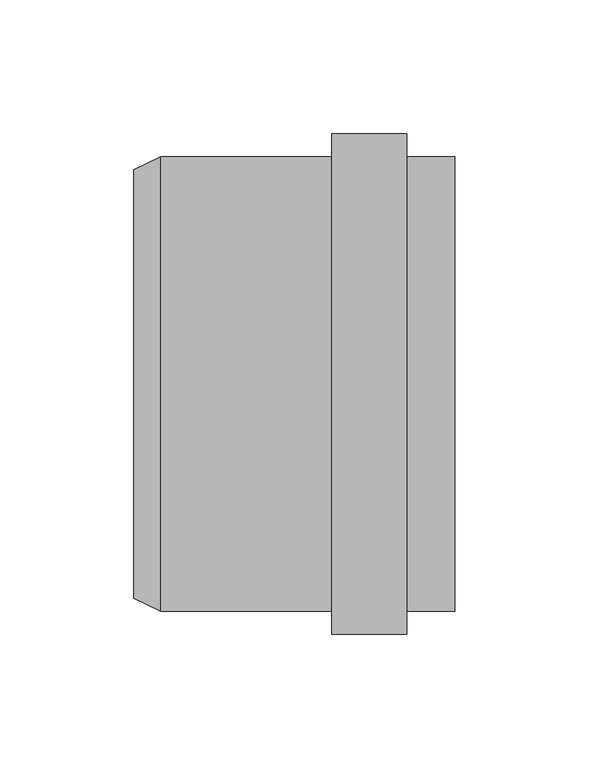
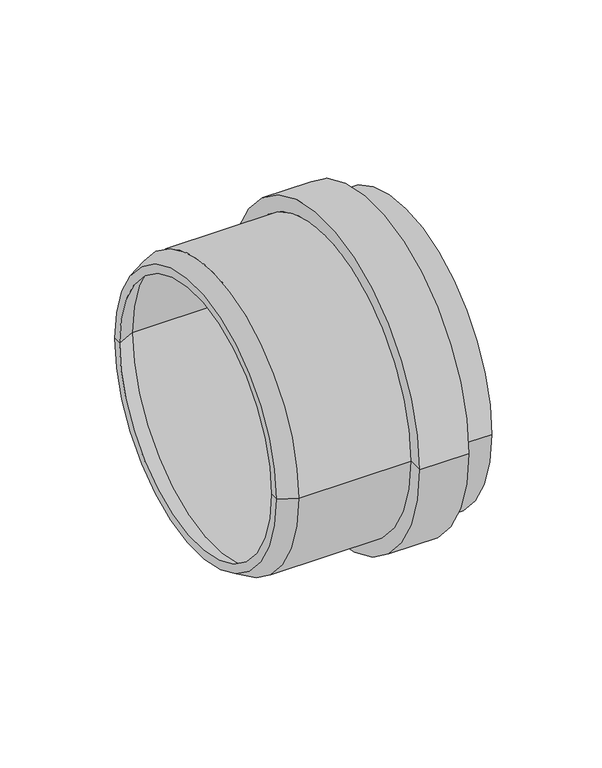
"""IFC4 building model written with IfcOpenShell, lengths in millimetres: pipe fitting geometry, OSMA_KG2000_Hrdlo : Hrdlo."""

from ifc_helpers import new_model, si_unit, frame, origin, place, context, project, spatial, polyline, circle_curve, source, transform, mapped, element, save
from ifc_brep_helpers import plane_surface, cylinder_surface, revolved_surface, advanced_brep


def pipe_fitting_27c7ea6c(model_context):
    return source(origin(), model_context, "Body", "AdvancedBrep", [
        advanced_brep(
        [(69.0, -93.5, 0.0), (69.0, 93.5, 0.0), (97.0, 93.5, 0.0), (97.0, -93.5, 0.0), (69.0, -84.9, 0.0), (69.0, 84.9, 0.0), (5.0, -84.9, 0.0), (5.0, 84.9, 0.0), (-5.0, -80.0, 0.0), (-5.0, 80.0, 0.0), (-5.0, -75.1, 0.0), (-5.0, 75.1, 0.0), (5.0, -80.0, 0.0), (5.0, 80.0, 0.0), (115.0, -80.0, 0.0), (115.0, 80.0, 0.0), (115.0, -84.9, 0.0), (115.0, 84.9, 0.0), (97.0, -84.9, 0.0), (97.0, 84.9, 0.0)],
        [
            (0, 1, circle_curve(frame((69.0, 0.0, 0.0), z_axis=(1.0, 0.0, 0.0), x_axis=(0.0, 1.0, 0.0)), 93.5)),
            (1, 2),
            (2, 3, circle_curve(frame((97.0, 0.0, 0.0), z_axis=(-1.0, 0.0, 0.0), x_axis=(0.0, 1.0, 0.0)), 93.5)),
            (3, 0),
            (1, 0, circle_curve(frame((69.0, 0.0, 0.0), z_axis=(1.0, 0.0, 0.0), x_axis=(0.0, 1.0, 0.0)), 93.5)),
            (3, 2, circle_curve(frame((97.0, 0.0, 0.0), z_axis=(-1.0, 0.0, 0.0), x_axis=(0.0, 1.0, 0.0)), 93.5)),
            (4, 5, circle_curve(frame((69.0, 0.0, 0.0), z_axis=(1.0, 0.0, 0.0), x_axis=(0.0, 1.0, 0.0)), 84.9)),
            (5, 1),
            (0, 4),
            (5, 4, circle_curve(frame((69.0, 0.0, 0.0), z_axis=(1.0, 0.0, 0.0), x_axis=(0.0, 1.0, 0.0)), 84.9)),
            (6, 7, circle_curve(frame((5.0, 0.0, 0.0), z_axis=(1.0, 0.0, 0.0), x_axis=(0.0, 1.0, 0.0)), 84.9)),
            (7, 5),
            (4, 6),
            (7, 6, circle_curve(frame((5.0, 0.0, 0.0), z_axis=(1.0, 0.0, 0.0), x_axis=(0.0, 1.0, 0.0)), 84.9)),
            (8, 9, circle_curve(frame((-5.0, 0.0, 0.0), z_axis=(1.0, 0.0, 0.0), x_axis=(0.0, 1.0, 0.0)), 80.0)),
            (9, 7),
            (6, 8),
            (9, 8, circle_curve(frame((-5.0, 0.0, 0.0), z_axis=(1.0, 0.0, 0.0), x_axis=(0.0, 1.0, 0.0)), 80.0)),
            (10, 11, circle_curve(frame((-5.0, 0.0, 0.0), z_axis=(1.0, 0.0, 0.0), x_axis=(0.0, 1.0, 0.0)), 75.1)),
            (11, 9),
            (8, 10),
            (11, 10, circle_curve(frame((-5.0, 0.0, 0.0), z_axis=(1.0, 0.0, 0.0), x_axis=(0.0, 1.0, 0.0)), 75.1)),
            (12, 13, circle_curve(frame((5.0, 0.0, 0.0), z_axis=(1.0, 0.0, 0.0), x_axis=(0.0, 1.0, 0.0)), 80.0)),
            (13, 11),
            (10, 12),
            (13, 12, circle_curve(frame((5.0, 0.0, 0.0), z_axis=(1.0, 0.0, 0.0), x_axis=(0.0, 1.0, 0.0)), 80.0)),
            (14, 15, circle_curve(frame((115.0, 0.0, 0.0), z_axis=(1.0, 0.0, 0.0), x_axis=(0.0, 1.0, 0.0)), 80.0)),
            (15, 13),
            (12, 14),
            (15, 14, circle_curve(frame((115.0, 0.0, 0.0), z_axis=(1.0, 0.0, 0.0), x_axis=(0.0, 1.0, 0.0)), 80.0)),
            (16, 17, circle_curve(frame((115.0, 0.0, 0.0), z_axis=(1.0, 0.0, 0.0), x_axis=(0.0, 1.0, 0.0)), 84.9)),
            (17, 15),
            (14, 16),
            (17, 16, circle_curve(frame((115.0, 0.0, 0.0), z_axis=(1.0, 0.0, 0.0), x_axis=(0.0, 1.0, 0.0)), 84.9)),
            (18, 19, circle_curve(frame((97.0, 0.0, 0.0), z_axis=(1.0, 0.0, 0.0), x_axis=(0.0, 1.0, 0.0)), 84.9)),
            (19, 17),
            (16, 18),
            (19, 18, circle_curve(frame((97.0, 0.0, 0.0), z_axis=(1.0, 0.0, 0.0), x_axis=(0.0, 1.0, 0.0)), 84.9)),
            (2, 19),
            (18, 3),
        ],
        [
            cylinder_surface(frame((395.497004, 0.0, 0.0), z_axis=(-1.0, 0.0, 0.0), x_axis=(0.0, 1.0, 0.0)), 93.5),
            plane_surface(frame((69.0, 0.0, 0.0), z_axis=(-1.0, 0.0, 0.0), x_axis=(0.0, 1.0, 0.0))),
            cylinder_surface(frame((395.497004, 0.0, 0.0), z_axis=(-1.0, 0.0, 0.0), x_axis=(0.0, 1.0, 0.0)), 84.9),
            revolved_surface(polyline([(5.0, 84.9, 0.0), (-5.0, 80.0, 0.0)]), (395.497004, 0.0, 0.0), (-1.0, 0.0, 0.0)),
            plane_surface(frame((-5.0, 0.0, 0.0), z_axis=(-1.0, 0.0, 0.0), x_axis=(0.0, 1.0, 0.0))),
            revolved_surface(polyline([(-5.0, 75.1, 0.0), (5.0, 80.0, 0.0)]), (395.497004, 0.0, 0.0), (-1.0, 0.0, 0.0)),
            revolved_surface(polyline([(5.0, 80.0, 0.0), (115.0, 80.0, 0.0)]), (395.497004, 0.0, 0.0), (-1.0, 0.0, 0.0)),
            plane_surface(frame((115.0, 0.0, 0.0), z_axis=(1.0, 0.0, 0.0), x_axis=(0.0, 1.0, 0.0))),
            plane_surface(frame((97.0, 0.0, 0.0), z_axis=(1.0, 0.0, 0.0), x_axis=(0.0, 1.0, 0.0))),
        ],
        [
            (0, [[1, 2, 3, 4]]),
            (0, [[5, -4, 6, -2]]),
            (1, [[7, 8, -1, 9]]),
            (1, [[10, -9, -5, -8]]),
            (2, [[11, 12, -7, 13]]),
            (2, [[14, -13, -10, -12]]),
            (3, [[15, 16, -11, 17]]),
            (3, [[18, -17, -14, -16]]),
            (4, [[19, 20, -15, 21]]),
            (4, [[22, -21, -18, -20]]),
            (5, [[23, 24, -19, 25]]),
            (5, [[26, -25, -22, -24]]),
            (6, [[27, 28, -23, 29]]),
            (6, [[30, -29, -26, -28]]),
            (7, [[31, 32, -27, 33]]),
            (7, [[34, -33, -30, -32]]),
            (2, [[35, 36, -31, 37]]),
            (2, [[38, -37, -34, -36]]),
            (8, [[-3, 39, -35, 40]]),
            (8, [[-6, -40, -38, -39]]),
        ],
    ),
    ])


if __name__ == "__main__":
    model = new_model("IFC4")
    model_context = context("Model", 3, world=origin())
    ifc_project = project(units=[si_unit("LENGTHUNIT", "METRE", prefix="MILLI")], contexts=[model_context])
    site = spatial("IfcSite", under=ifc_project)
    building = spatial("IfcBuilding", under=site)
    placement = place(None, origin())
    pipe_fitting_shape = pipe_fitting_27c7ea6c(model_context)
    element("IfcPipeFitting", 1, ObjectType="OSMA_KG2000_Hrdlo : Hrdlo", at=placement, inside=building, context=model_context, shape_type="MappedRepresentation", body=[
        mapped(pipe_fitting_shape, transform((0.0, 0.0, 0.0), x_axis=(1.0, 0.0, 0.0), y_axis=(0.0, 1.0, 0.0), z_axis=(0.0, 0.0, 1.0))),
    ])
    save(model, "model.ifc")
